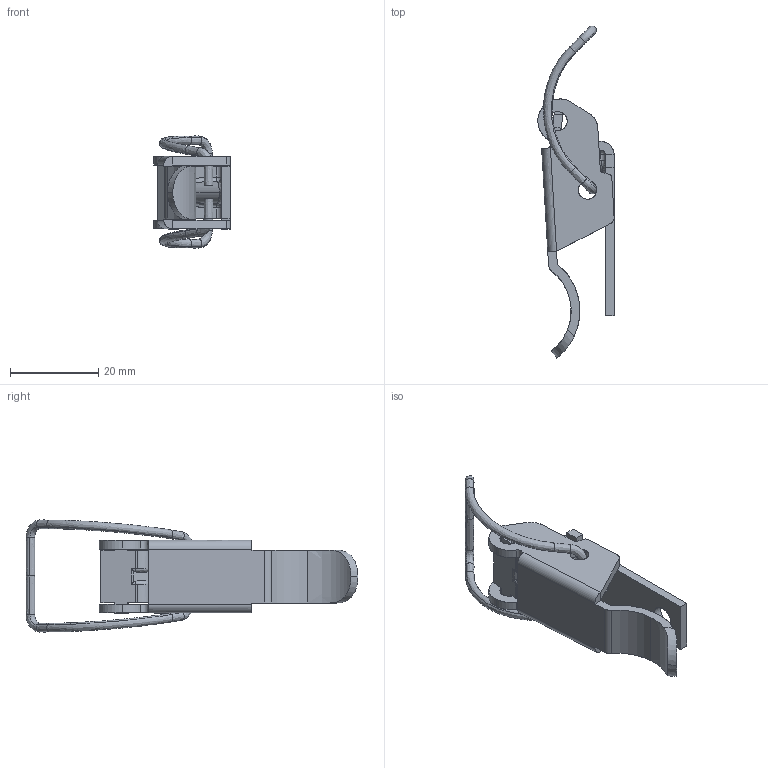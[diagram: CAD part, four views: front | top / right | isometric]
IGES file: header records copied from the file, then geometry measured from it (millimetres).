
Start section: SolidWorks IGES FILE using analytic representation for surfaces
Global section: file name: C:\WINNT\Profiles\cbrechard\Bureau\GE 5\GE 5.IGS; native system: SolidWorks 2001Plus by SolidWorks Corporation; preprocessor: Version 5.3; author: CBRECHARD; date: 050125.134011; units: millimetre
Bounding box: 17.3 x 75.36 x 25.43 mm (x, y, z)
Surface area: 5820.7 mm2 (no closed solid volume)
Topology: 0 solids, 0 shells, 168 faces, 1790 edges, 1788 vertices
Faces by surface type: bspline 102, revolution 66
